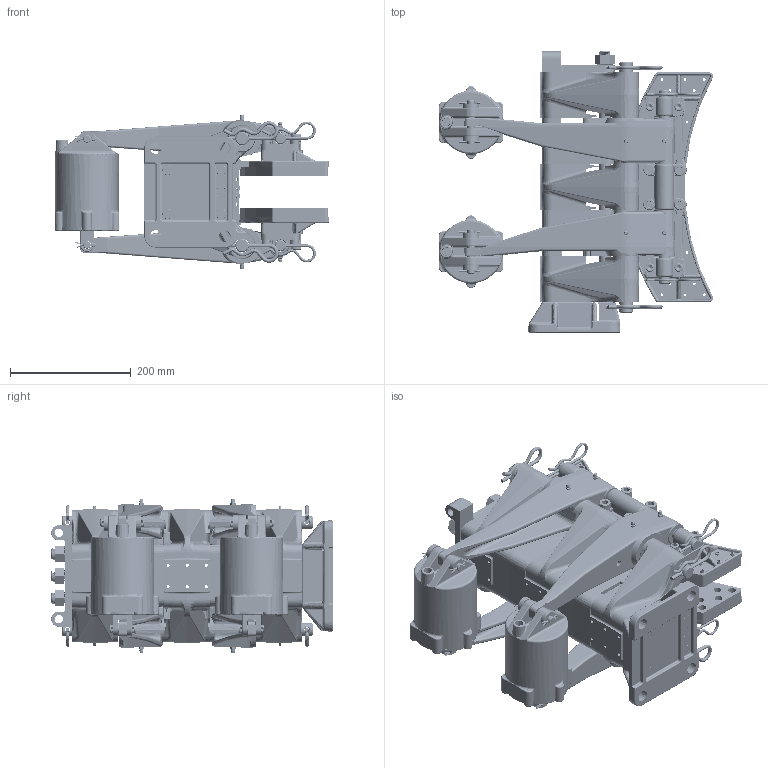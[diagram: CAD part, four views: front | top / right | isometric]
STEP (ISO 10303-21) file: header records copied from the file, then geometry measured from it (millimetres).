
FILE_DESCRIPTION (( 'STEP AP214' ), '1' );
FILE_NAME ('5027-H1.STEP', '2020-07-24T23:08:31', ( '' ), ( '' ), 'SwSTEP 2.0', 'SolidWorks 2019', '' );
FILE_SCHEMA (( 'AUTOMOTIVE_DESIGN' ));
Length unit declared in the file: inch
Products named in the file (2): 5027-H1
Bounding box: 454.85 x 466.98 x 254.37 mm (x, y, z)
Surface area: 1564819 mm2 (no closed solid volume)
Topology: 0 solids, 163 shells, 4189 faces, 12574 edges, 8298 vertices
Faces by surface type: cylinder 1403, plane 917, bspline 893, cone 573, torus 386, sphere 17
Entity records: 262663 total; most frequent: CARTESIAN_POINT 106524, ORIENTED_EDGE 21222, DIRECTION 19570, EDGE_CURVE 12494, VERTEX_POINT 8298, AXIS2_PLACEMENT_3D 7772, EDGE_LOOP 4748, CIRCLE 4474
